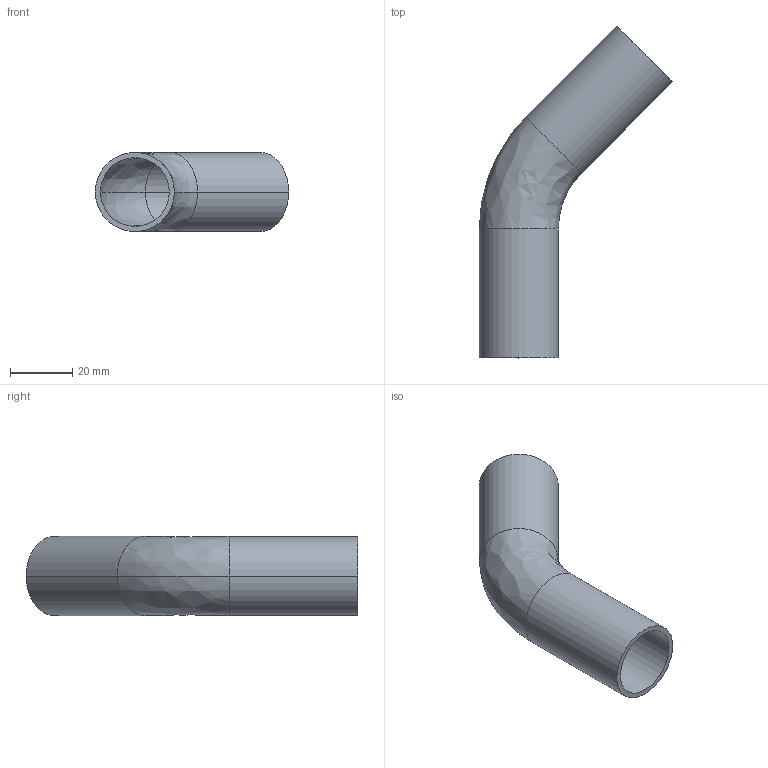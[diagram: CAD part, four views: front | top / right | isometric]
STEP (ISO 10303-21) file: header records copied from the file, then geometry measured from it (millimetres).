
FILE_DESCRIPTION (( 'STEP AP214' ), '1' );
FILE_NAME ('TE2KS6L1.0-...STEP', '2016-05-22T06:46:32', ( 'eran' ), ( '' ), 'SwSTEP 2.0', 'SolidWorks 2016', '' );
FILE_SCHEMA (( 'AUTOMOTIVE_DESIGN' ));
Length unit declared in the file: millimetre
Products named in the file (1): TE2KS6L1.0-..
Bounding box: 62.13 x 106.63 x 25.4 mm (x, y, z)
Volume: 13882.1 mm3; surface area: 17073 mm2
Topology: 1 solids, 1 shells, 14 faces, 28 edges, 16 vertices
Faces by surface type: cylinder 8, bspline 4, plane 2
Entity records: 450 total; most frequent: CARTESIAN_POINT 119, DIRECTION 70, ORIENTED_EDGE 56, AXIS2_PLACEMENT_3D 31, EDGE_CURVE 28, CIRCLE 20, EDGE_LOOP 16, VERTEX_POINT 16
